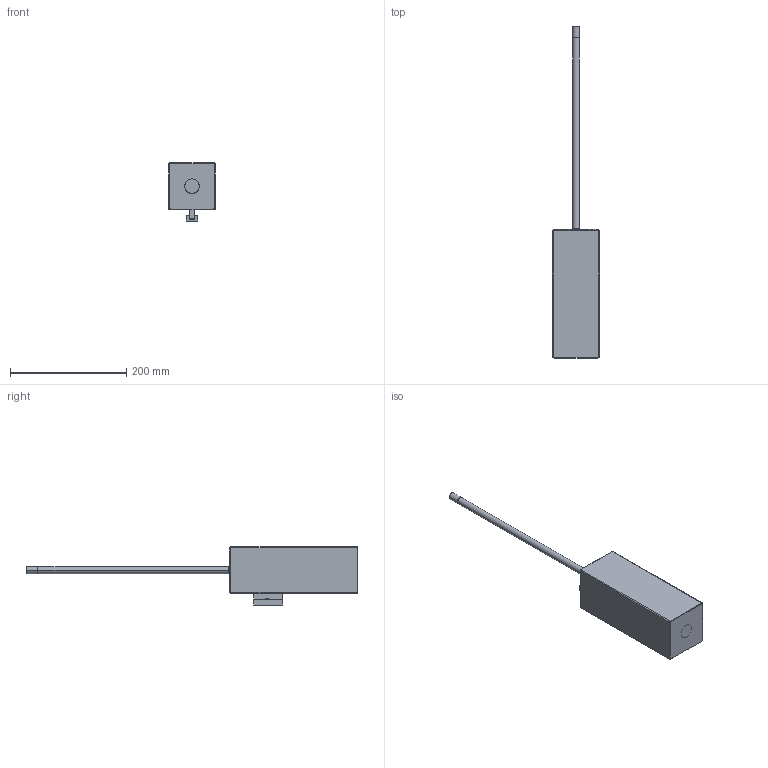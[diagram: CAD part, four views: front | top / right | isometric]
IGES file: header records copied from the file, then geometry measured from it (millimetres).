
Start section: SolidWorks IGES file using analytic representation for surfaces
Global section: file name: G:\Projects\New project\For Marketing\IGS\IGS\2015-12-4\389001002VW.IGS; native system: SolidWorks 2010; preprocessor: SolidWorks 2010; author: linda; date: 151201.115136; units: millimetre
Bounding box: 80 x 572.02 x 100 mm (x, y, z)
Surface area: 106770.6 mm2 (no closed solid volume)
Topology: 0 solids, 0 shells, 77 faces, 947 edges, 947 vertices
Faces by surface type: bspline 39, revolution 38
